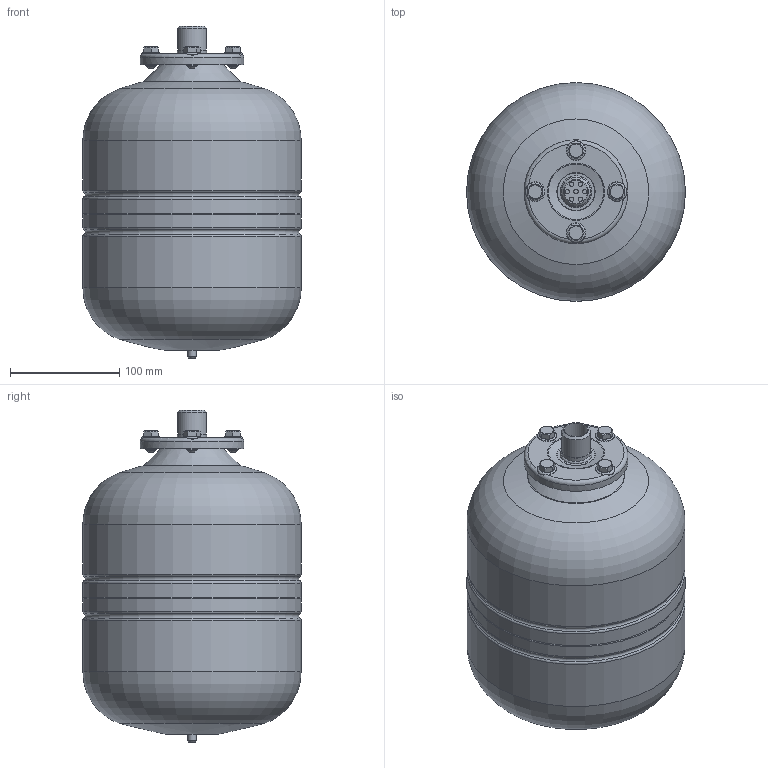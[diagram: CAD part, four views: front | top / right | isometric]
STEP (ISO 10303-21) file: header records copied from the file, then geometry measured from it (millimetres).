
FILE_DESCRIPTION(('STEP AP214'), '1');
FILE_NAME('WAV-8', '', ('UNSPECIFIED'), ('UNSPECIFIED'), 'ASCON STEP Converter 1.3', 'ASCON Math Kernel', '');
FILE_SCHEMA(('AUTOMOTIVE_DESIGN { 1 0 10303 214 3 1 1}'));
Length unit declared in the file: millimetre
Bounding box: 200.44 x 200.44 x 304 mm (x, y, z)
Volume: 6993267.9 mm3; surface area: 203401.8 mm2
Topology: 8 solids, 9 shells, 225 faces, 539 edges, 355 vertices
Faces by surface type: plane 118, cylinder 37, cone 27, torus 25, bspline 16, sphere 2
Full cylindrical faces by diameter (mm): 4 x7, 5.5 x1, 8 x9, 9 x4, 10.6 x4, 21.2 x1, 26.442 x1, 26.8 x1, 95 x1, 200 x4
Entity records: 12632 total; most frequent: CARTESIAN_POINT 5750, DIRECTION 1062, ORIENTED_EDGE 934, AXIS2_PLACEMENT_3D 480, EDGE_CURVE 467, VERTEX_POINT 353, EDGE_LOOP 326, FACE_BOUND 303
